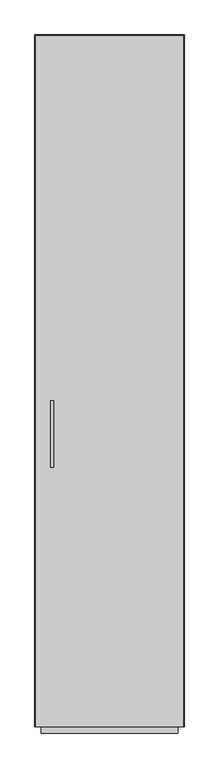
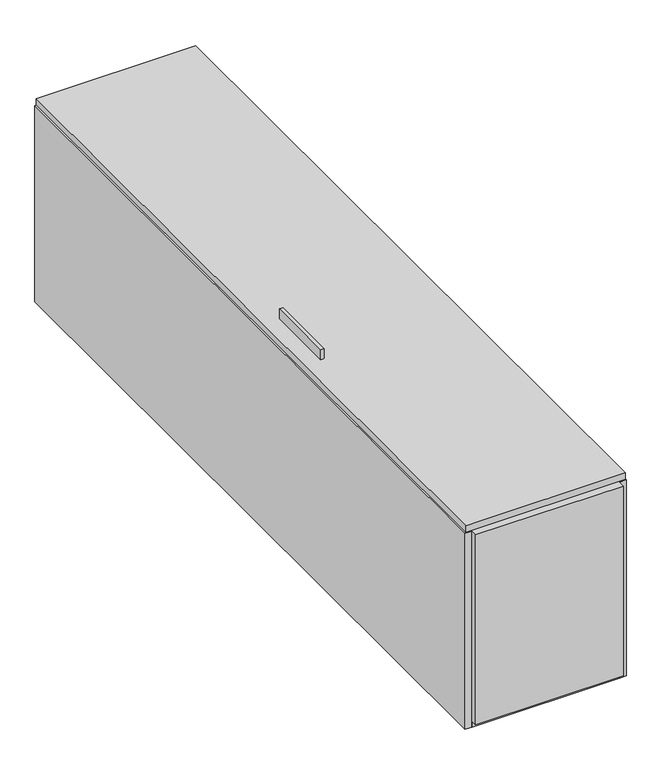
"""IFC4 building model written with IfcOpenShell, lengths in millimetres: proxy geometry, BASYS^WARDROBE-18x24x84-RIGHT END."""

from ifc_helpers import new_model, si_unit, frame, origin, origin_with_axes, place, context, project, spatial, polyline, outline, extrude, source, transform, mapped, element, save


def generic_models_bd4945b3(model_context):
    return source(origin(), model_context, "Body", "SweptSolid", [
        extrude(outline(polyline([(58.18125, 1014.8), (58.18125, 812.8), (48.18125, 812.8), (48.18125, 1014.8), (58.18125, 1014.8)])), frame((0.0, 0.0, 609.6), z_axis=(0.0, 0.0, 1.0), x_axis=(1.0, 0.0, 0.0)), (0.0, 0.0, 1.0), 30.0),
        extrude(outline(polyline([(19.05, 2114.55), (19.05, 2133.6), (438.15, 2133.6), (438.15, 2114.55), (19.05, 2114.55)])), frame((0.0, 0.0, 19.05), z_axis=(0.0, 0.0, 1.0), x_axis=(1.0, 0.0, 0.0)), (0.0, 0.0, 1.0), 568.325),
        extrude(outline(polyline([(19.05, 2133.6), (19.05, 19.05), (0.0, 19.05), (0.0, 2133.6), (19.05, 2133.6)])), origin_with_axes(), (0.0, 0.0, 1.0), 587.375),
        extrude(outline(polyline([(2.38125, 19.05), (2.38125, 2131.21875), (454.81875, 2131.21875), (454.81875, 19.05), (2.38125, 19.05)])), frame((0.0, 0.0, 590.55), z_axis=(0.0, 0.0, 1.0), x_axis=(1.0, 0.0, 0.0)), (0.0, 0.0, 1.0), 19.05),
        extrude(outline(polyline([(438.15, 38.1), (438.15, 0.0), (19.05, 0.0), (19.05, 38.1), (438.15, 38.1)])), frame((0.0, 0.0, 19.05), z_axis=(0.0, 0.0, 1.0), x_axis=(1.0, 0.0, 0.0)), (0.0, 0.0, 1.0), 568.325),
        extrude(outline(polyline([(438.15, 19.05), (438.15, 2133.6), (457.2, 2133.6), (457.2, 19.05), (438.15, 19.05)])), origin_with_axes(), (0.0, 0.0, 1.0), 587.375),
        extrude(outline(polyline([(438.15, 2133.6), (438.15, 19.05), (19.05, 19.05), (19.05, 2133.6), (438.15, 2133.6)])), origin_with_axes(), (0.0, 0.0, 1.0), 19.05),
    ])


if __name__ == "__main__":
    model = new_model("IFC4")
    model_context = context("Model", 3, world=origin())
    ifc_project = project(units=[si_unit("LENGTHUNIT", "METRE", prefix="MILLI")], contexts=[model_context])
    site = spatial("IfcSite", under=ifc_project)
    building = spatial("IfcBuilding", under=site)
    placement = place(None, origin())
    generic_models_shape = generic_models_bd4945b3(model_context)
    element("IfcBuildingElementProxy", 1, Name="BASYS^WARDROBE-18x24x84-RIGHT END", ObjectType="BASYS^WARDROBE-18x24x84-RIGHT END", at=placement, inside=building, context=model_context, shape_type="MappedRepresentation", body=[
        mapped(generic_models_shape, transform((0.0, 0.0, 0.0), x_axis=(1.0, 0.0, 0.0), y_axis=(0.0, 1.0, 0.0), z_axis=(0.0, 0.0, 1.0))),
    ])
    save(model, "model.ifc")
